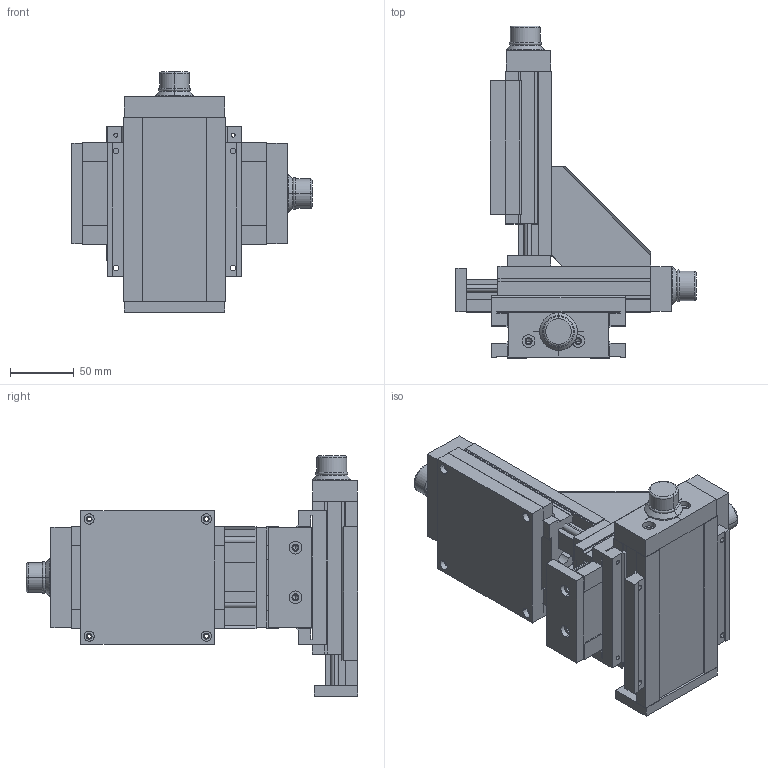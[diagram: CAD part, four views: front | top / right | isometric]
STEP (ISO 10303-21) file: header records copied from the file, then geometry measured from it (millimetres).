
FILE_DESCRIPTION (( 'STEP AP203' ), '1' );
FILE_NAME ('domiLINE 80 XYZ.STEP', '2001-10-08T13:11:21', ( '' ), ( '' ), 'SwSTEP 2.0', 'SolidWorks 2001239', '' );
FILE_SCHEMA (( 'CONFIG_CONTROL_DESIGN' ));
Length unit declared in the file: millimetre
Products named in the file (8): domiLINE 80 XYZ; X-Y Verbindung dL80-+-D006061_ ; Montage M80 light-+-D002994_ ; Befestigungssatz-+-D006207_ ; domiLINE 80 neu light-+-D003978_ ; Aussen neu light 80-+-D003976_ ; dL80 neu light-+-D003977_ ; X-Z Verbindung dL80-+-D006215_ 
Assembly tree (9 placements, depth 3):
  domiLINE 80 XYZ
    Befestigungssatz-+-D006207_ 
    domiLINE 80 neu light-+-D003978_   x3
      dL80 neu light-+-D003977_ 
      Aussen neu light 80-+-D003976_ 
    X-Y Verbindung dL80-+-D006061_ 
    X-Z Verbindung dL80-+-D006215_ 
    Montage M80 light-+-D002994_ 
Bounding box: 188.5 x 260.5 x 188.5 mm (x, y, z)
Volume: 1451978.8 mm3; surface area: 432465.3 mm2
Topology: 10 solids, 13 shells, 816 faces, 2132 edges, 1381 vertices
Faces by surface type: plane 512, cylinder 256, cone 36, torus 12
Entity records: 13806 total; most frequent: CARTESIAN_POINT 2246, DIRECTION 2233, ORIENTED_EDGE 2184, EDGE_CURVE 1092, LINE 805, VECTOR 805, VERTEX_POINT 719, AXIS2_PLACEMENT_3D 714
